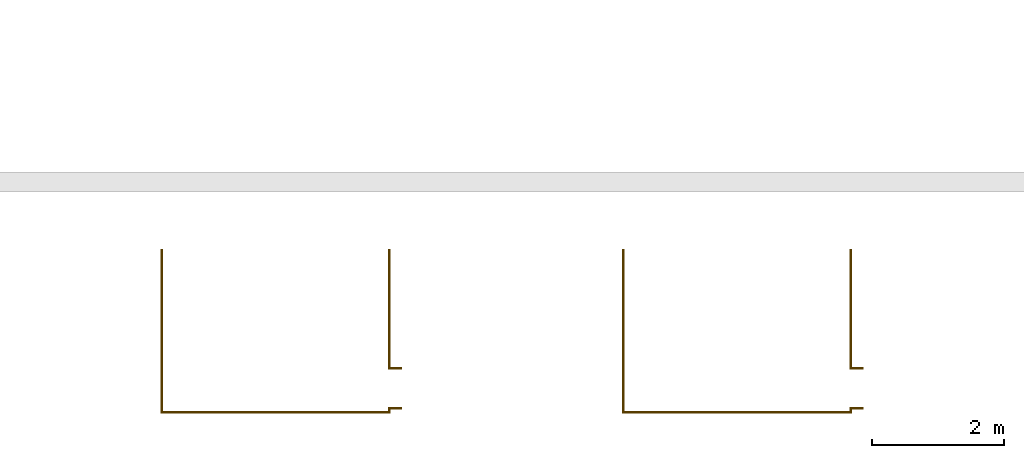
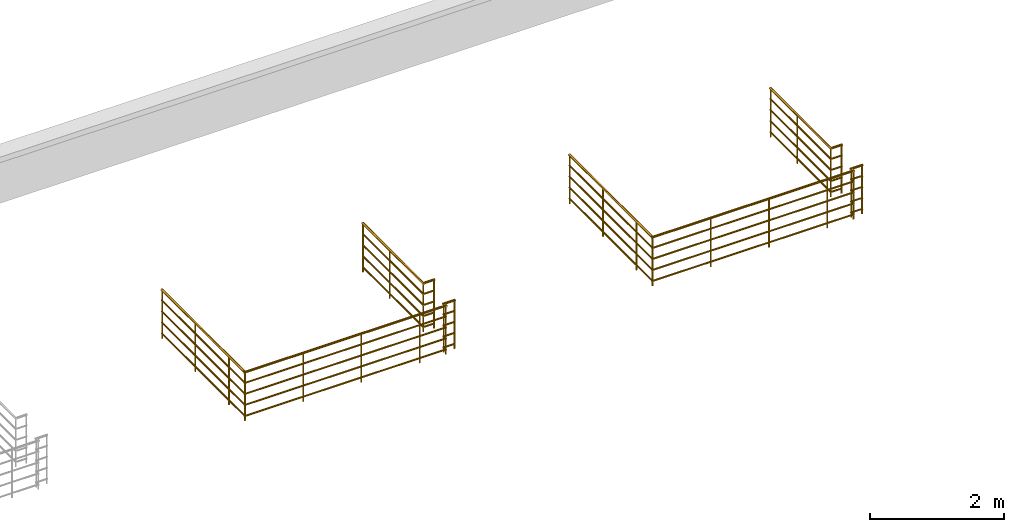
# One storey, part 3 of 6: 4 railings.
"""IFC2X3 building model written with IfcOpenShell, lengths in millimetres."""

from ifc_helpers import new_model, entity, si_unit, converted_unit, derived_unit, direction, frame, frame_2d, origin, origin_2d_with_axis, place, context, subcontext, project, spatial, circle, extrude, element, save


model = new_model("IFC2X3")

# Units and contexts
model_context = context("Model", 3, precision=0.01, world=origin(), true_north=direction((6.12303176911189e-17, 1.0)))
body_context = subcontext(model_context, "Body", "Model", "MODEL_VIEW")
ifc_project = project(units=[si_unit("LENGTHUNIT", "METRE", prefix="MILLI"), si_unit("AREAUNIT", "SQUARE_METRE"), si_unit("VOLUMEUNIT", "CUBIC_METRE"), converted_unit("PLANEANGLEUNIT", "DEGREE", entity("IfcRatioMeasure", 0.0174532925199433), si_unit("PLANEANGLEUNIT", "RADIAN"), dimensions=[0, 0, 0, 0, 0, 0, 0]), si_unit("MASSUNIT", "GRAM", prefix="KILO"), derived_unit("MASSDENSITYUNIT", [(si_unit("MASSUNIT", "GRAM", prefix="KILO"), 1), (si_unit("LENGTHUNIT", "METRE"), -3)]), si_unit("TIMEUNIT", "SECOND"), si_unit("FREQUENCYUNIT", "HERTZ"), si_unit("THERMODYNAMICTEMPERATUREUNIT", "DEGREE_CELSIUS"), derived_unit("THERMALTRANSMITTANCEUNIT", [(si_unit("MASSUNIT", "GRAM", prefix="KILO"), 1), (si_unit("THERMODYNAMICTEMPERATUREUNIT", "KELVIN"), -1), (si_unit("TIMEUNIT", "SECOND"), -3)]), derived_unit("VOLUMETRICFLOWRATEUNIT", [(si_unit("LENGTHUNIT", "METRE"), 3), (si_unit("TIMEUNIT", "SECOND"), -1)]), si_unit("ELECTRICCURRENTUNIT", "AMPERE"), si_unit("ELECTRICVOLTAGEUNIT", "VOLT"), si_unit("POWERUNIT", "WATT"), si_unit("FORCEUNIT", "NEWTON", prefix="KILO"), si_unit("ILLUMINANCEUNIT", "LUX"), si_unit("LUMINOUSFLUXUNIT", "LUMEN"), si_unit("LUMINOUSINTENSITYUNIT", "CANDELA"), derived_unit("USERDEFINED", [(si_unit("MASSUNIT", "GRAM", prefix="KILO"), -1), (si_unit("LENGTHUNIT", "METRE"), -2), (si_unit("TIMEUNIT", "SECOND"), 3), (si_unit("LUMINOUSFLUXUNIT", "LUMEN"), 1)]), derived_unit("LINEARVELOCITYUNIT", [(si_unit("LENGTHUNIT", "METRE"), 1), (si_unit("TIMEUNIT", "SECOND"), -1)]), si_unit("PRESSUREUNIT", "PASCAL"), derived_unit("USERDEFINED", [(si_unit("LENGTHUNIT", "METRE"), -2), (si_unit("MASSUNIT", "GRAM", prefix="KILO"), 1), (si_unit("TIMEUNIT", "SECOND"), -2)])], contexts=[model_context])

# Site, building, storey
site_placement = place(None, origin())
site = spatial("IfcSite", under=ifc_project, at=site_placement, Name="表面", CompositionType="ELEMENT")
building_placement = place(site_placement, origin())
building = spatial("IfcBuilding", under=site, at=building_placement, CompositionType="ELEMENT")
storey_placement = place(building_placement, frame((0.0, 0.0, 3300.0)))
storey = spatial("IfcBuildingStorey", under=building, at=storey_placement, Name="3.3000", CompositionType="ELEMENT", Elevation=3300.0)

# Railings
railing_1_placement = place(storey_placement, origin())
element("IfcRailing", 1, at=railing_1_placement, inside=storey, Name="栏杆扶手:900mm 圆管", ObjectType="栏杆扶手:900mm 圆管", PredefinedType="NOTDEFINED", context=body_context, shape_type="SweptSolid", body=[
    extrude(circle(Radius=12.5, at=origin_2d_with_axis()), frame((-3454.17647644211, -2105.09994881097, 500.0), z_axis=(0.0, 0.0, 1.0), x_axis=(0.0, -1.0, 0.0)), (0.0, 0.0, 1.0), 859.999999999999),
    extrude(circle(Radius=12.5, at=origin_2d_with_axis()), frame((-4454.17647644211, -2105.09994881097, 500.0), z_axis=(0.0, 0.0, 1.0), x_axis=(0.0, -1.0, 0.0)), (0.0, 0.0, 1.0), 859.999999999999),
    extrude(circle(Radius=12.5, at=origin_2d_with_axis()), frame((-5454.17647644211, -2105.09994881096, 500.0), z_axis=(0.0, 0.0, 1.0), x_axis=(0.0, -1.0, 0.0)), (0.0, 0.0, 1.0), 859.999999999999),
    extrude(circle(Radius=12.5, at=frame_2d((4.69078510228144e-28, -2.70716782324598e-13), x_axis=(1.0, 0.0))), frame((-6454.17647644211, -1630.30259261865, 500.0), z_axis=(0.0, 0.0, 1.0), x_axis=(-1.0, 0.0, 0.0)), (0.0, 0.0, 1.0), 859.999999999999),
    extrude(circle(Radius=12.5, at=origin_2d_with_axis()), frame((-6454.17647644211, -630.302592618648, 500.0), z_axis=(0.0, 0.0, 1.0), x_axis=(-1.0, 0.0, 0.0)), (0.0, 0.0, 1.0), 859.999999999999),
    extrude(circle(Radius=12.5, at=frame_2d((0.0, -2.70716782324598e-13), x_axis=(1.0, 0.0))), frame((-3003.79878140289, -2045.09994881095, 500.0)), (0.0, 0.0, 1.0), 859.999999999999),
    extrude(circle(Radius=12.5, at=origin_2d_with_axis()), frame((-3003.79878140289, -2105.09994881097, 500.0), z_axis=(0.0, 0.0, 1.0), x_axis=(0.0, -1.0, 0.0)), (0.0, 0.0, 1.0), 859.999999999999),
    extrude(circle(Radius=12.5, at=origin_2d_with_axis()), frame((-6454.17647644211, -2105.09994881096, 500.0), z_axis=(0.0, 0.0, 1.0), x_axis=(-1.0, 0.0, 0.0)), (0.0, 0.0, 1.0), 859.999999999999),
    extrude(circle(Radius=12.5, at=origin_2d_with_axis()), frame((-2821.29878140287, -2045.09994881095, 500.0), z_axis=(0.0, 0.0, 1.0), x_axis=(0.0, -1.0, 0.0)), (0.0, 0.0, 1.0), 859.999999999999),
    extrude(circle(Radius=12.5, at=frame_2d((1.17269627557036e-28, -6.76791955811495e-14), x_axis=(1.0, 0.0))), frame((-6454.1764764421, 357.197407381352, 500.0), z_axis=(0.0, 0.0, 1.0), x_axis=(-1.0, 0.0, 0.0)), (0.0, 0.0, 1.0), 859.999999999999),
    extrude(circle(Radius=20.0, at=origin_2d_with_axis()), frame((-6454.17647644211, -2085.09994881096, 1380.0), z_axis=(0.0, 1.0, 0.0), x_axis=(1.0, 0.0, 0.0)), (0.0, 0.0, 1.0), 2454.79735619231),
    extrude(circle(Radius=20.0, at=origin_2d_with_axis()), frame((-6474.17647644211, -2105.09994881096, 1380.0), z_axis=(1.0, 0.0, 0.0), x_axis=(0.0, 1.0, 0.0)), (0.0, 0.0, 1.0), 3450.37769503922),
    extrude(circle(Radius=20.0, at=origin_2d_with_axis()), frame((-3003.79878140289, -2125.09994881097, 1380.0), z_axis=(0.0, 1.0, 0.0), x_axis=(-1.0, 0.0, 0.0)), (0.0, 0.0, 1.0), 60.0000000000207),
    extrude(circle(Radius=20.0, at=origin_2d_with_axis()), frame((-3023.79878140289, -2045.09994881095, 1380.0), z_axis=(1.0, 0.0, 0.0), x_axis=(0.0, 1.0, 0.0)), (0.0, 0.0, 1.0), 215.000000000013),
    extrude(circle(Radius=15.0, at=origin_2d_with_axis()), frame((-6454.17647644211, -2090.09994881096, 1185.0), z_axis=(0.0, 1.0, 0.0), x_axis=(1.0, 0.0, 0.0)), (0.0, 0.0, 1.0), 2459.79735619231),
    extrude(circle(Radius=15.0, at=origin_2d_with_axis()), frame((-6469.17647644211, -2105.09994881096, 1185.0), z_axis=(1.0, 0.0, 0.0), x_axis=(0.0, 1.0, 0.0)), (0.0, 0.0, 1.0), 3450.37769503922),
    extrude(circle(Radius=15.0, at=origin_2d_with_axis()), frame((-3003.79878140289, -2120.09994881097, 1185.0), z_axis=(0.0, 1.0, 0.0), x_axis=(-1.0, 0.0, 0.0)), (0.0, 0.0, 1.0), 60.000000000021),
    extrude(circle(Radius=15.0, at=origin_2d_with_axis()), frame((-3018.79878140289, -2045.09994881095, 1185.0), z_axis=(1.0, 0.0, 0.0), x_axis=(0.0, 1.0, 0.0)), (0.0, 0.0, 1.0), 210.000000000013),
    extrude(circle(Radius=15.0, at=origin_2d_with_axis()), frame((-6454.17647644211, -2090.09994881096, 985.0), z_axis=(0.0, 1.0, 0.0), x_axis=(1.0, 0.0, 0.0)), (0.0, 0.0, 1.0), 2459.79735619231),
    extrude(circle(Radius=15.0, at=origin_2d_with_axis()), frame((-6469.17647644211, -2105.09994881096, 985.0), z_axis=(1.0, 0.0, 0.0), x_axis=(0.0, 1.0, 0.0)), (0.0, 0.0, 1.0), 3450.37769503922),
    extrude(circle(Radius=15.0, at=origin_2d_with_axis()), frame((-3003.79878140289, -2120.09994881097, 985.0), z_axis=(0.0, 1.0, 0.0), x_axis=(-1.0, 0.0, 0.0)), (0.0, 0.0, 1.0), 60.000000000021),
    extrude(circle(Radius=15.0, at=origin_2d_with_axis()), frame((-3018.79878140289, -2045.09994881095, 985.0), z_axis=(1.0, 0.0, 0.0), x_axis=(0.0, 1.0, 0.0)), (0.0, 0.0, 1.0), 210.000000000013),
    extrude(circle(Radius=15.0, at=origin_2d_with_axis()), frame((-6454.17647644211, -2090.09994881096, 785.0), z_axis=(0.0, 1.0, 0.0), x_axis=(1.0, 0.0, 0.0)), (0.0, 0.0, 1.0), 2459.79735619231),
    extrude(circle(Radius=15.0, at=origin_2d_with_axis()), frame((-6469.17647644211, -2105.09994881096, 785.0), z_axis=(1.0, 0.0, 0.0), x_axis=(0.0, 1.0, 0.0)), (0.0, 0.0, 1.0), 3450.37769503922),
    extrude(circle(Radius=15.0, at=origin_2d_with_axis()), frame((-3003.79878140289, -2120.09994881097, 785.0), z_axis=(0.0, 1.0, 0.0), x_axis=(-1.0, 0.0, 0.0)), (0.0, 0.0, 1.0), 60.000000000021),
    extrude(circle(Radius=15.0, at=origin_2d_with_axis()), frame((-3018.79878140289, -2045.09994881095, 785.0), z_axis=(1.0, 0.0, 0.0), x_axis=(0.0, 1.0, 0.0)), (0.0, 0.0, 1.0), 210.000000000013),
    extrude(circle(Radius=15.0, at=origin_2d_with_axis()), frame((-6454.17647644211, -2090.09994881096, 585.0), z_axis=(0.0, 1.0, 0.0), x_axis=(1.0, 0.0, 0.0)), (0.0, 0.0, 1.0), 2459.79735619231),
    extrude(circle(Radius=15.0, at=origin_2d_with_axis()), frame((-6469.17647644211, -2105.09994881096, 585.0), z_axis=(1.0, 0.0, 0.0), x_axis=(0.0, 1.0, 0.0)), (0.0, 0.0, 1.0), 3450.37769503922),
    extrude(circle(Radius=15.0, at=origin_2d_with_axis()), frame((-3003.79878140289, -2120.09994881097, 585.0), z_axis=(0.0, 1.0, 0.0), x_axis=(-1.0, 0.0, 0.0)), (0.0, 0.0, 1.0), 60.000000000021),
    extrude(circle(Radius=15.0, at=origin_2d_with_axis()), frame((-3018.79878140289, -2045.09994881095, 585.0), z_axis=(1.0, 0.0, 0.0), x_axis=(0.0, 1.0, 0.0)), (0.0, 0.0, 1.0), 210.000000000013),
])
railing_2_placement = place(storey_placement, origin())
element("IfcRailing", 2, at=railing_2_placement, inside=storey, Name="栏杆扶手:900mm 圆管", ObjectType="栏杆扶手:900mm 圆管", PredefinedType="NOTDEFINED", context=body_context, shape_type="SweptSolid", body=[
    extrude(circle(Radius=12.5, at=frame_2d((3.29419867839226e-28, -1.35358391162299e-13), x_axis=(1.0, 0.0))), frame((-3003.79878140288, -435.099948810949, 500.0)), (0.0, 0.0, 1.0), 859.999999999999),
    extrude(circle(Radius=12.5, at=origin_2d_with_axis()), frame((-3003.79878140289, -1435.09994881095, 500.0), z_axis=(0.0, 0.0, 1.0), x_axis=(0.0, 1.0, 0.0)), (0.0, 0.0, 1.0), 859.999999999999),
    extrude(circle(Radius=12.5, at=frame_2d((3.29419867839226e-28, -1.35358391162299e-13), x_axis=(1.0, 0.0))), frame((-3003.79878140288, 357.197407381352, 500.0)), (0.0, 0.0, 1.0), 859.999999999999),
    extrude(circle(Radius=12.5, at=origin_2d_with_axis()), frame((-2821.29878140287, -1435.09994881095, 500.0), z_axis=(0.0, 0.0, 1.0), x_axis=(0.0, 1.0, 0.0)), (0.0, 0.0, 1.0), 859.999999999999),
    extrude(circle(Radius=20.0, at=origin_2d_with_axis()), frame((-2983.79878140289, -1435.09994881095, 1380.0), z_axis=(1.0, 0.0, 0.0), x_axis=(0.0, -1.0, 0.0)), (0.0, 0.0, 1.0), 175.000000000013),
    extrude(circle(Radius=20.0, at=origin_2d_with_axis()), frame((-3003.79878140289, -1455.09994881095, 1380.0), z_axis=(0.0, 1.0, 0.0), x_axis=(-1.0, 0.0, 0.0)), (0.0, 0.0, 1.0), 1824.7973561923),
    extrude(circle(Radius=15.0, at=origin_2d_with_axis()), frame((-2988.79878140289, -1435.09994881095, 1185.0), z_axis=(1.0, 0.0, 0.0), x_axis=(0.0, -1.0, 0.0)), (0.0, 0.0, 1.0), 180.000000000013),
    extrude(circle(Radius=15.0, at=origin_2d_with_axis()), frame((-3003.79878140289, -1450.09994881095, 1185.0), z_axis=(0.0, 1.0, 0.0), x_axis=(-1.0, 0.0, 0.0)), (0.0, 0.0, 1.0), 1819.7973561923),
    extrude(circle(Radius=15.0, at=origin_2d_with_axis()), frame((-2988.79878140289, -1435.09994881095, 985.0), z_axis=(1.0, 0.0, 0.0), x_axis=(0.0, -1.0, 0.0)), (0.0, 0.0, 1.0), 180.000000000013),
    extrude(circle(Radius=15.0, at=origin_2d_with_axis()), frame((-3003.79878140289, -1450.09994881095, 985.0), z_axis=(0.0, 1.0, 0.0), x_axis=(-1.0, 0.0, 0.0)), (0.0, 0.0, 1.0), 1819.7973561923),
    extrude(circle(Radius=15.0, at=origin_2d_with_axis()), frame((-2988.79878140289, -1435.09994881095, 785.0), z_axis=(1.0, 0.0, 0.0), x_axis=(0.0, -1.0, 0.0)), (0.0, 0.0, 1.0), 180.000000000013),
    extrude(circle(Radius=15.0, at=origin_2d_with_axis()), frame((-3003.79878140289, -1450.09994881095, 785.0), z_axis=(0.0, 1.0, 0.0), x_axis=(-1.0, 0.0, 0.0)), (0.0, 0.0, 1.0), 1819.7973561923),
    extrude(circle(Radius=15.0, at=origin_2d_with_axis()), frame((-2988.79878140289, -1435.09994881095, 585.0), z_axis=(1.0, 0.0, 0.0), x_axis=(0.0, -1.0, 0.0)), (0.0, 0.0, 1.0), 180.000000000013),
    extrude(circle(Radius=15.0, at=origin_2d_with_axis()), frame((-3003.79878140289, -1450.09994881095, 585.0), z_axis=(0.0, 1.0, 0.0), x_axis=(-1.0, 0.0, 0.0)), (0.0, 0.0, 1.0), 1819.7973561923),
])
railing_3_placement = place(storey_placement, origin())
element("IfcRailing", 3, at=railing_3_placement, inside=storey, Name="栏杆扶手:900mm 圆管", ObjectType="栏杆扶手:900mm 圆管", PredefinedType="NOTDEFINED", context=body_context, shape_type="SweptSolid", body=[
    extrude(circle(Radius=12.5, at=origin_2d_with_axis()), frame((3545.8235235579, -2105.09994881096, 500.0), z_axis=(0.0, 0.0, 1.0), x_axis=(0.0, -1.0, 0.0)), (0.0, 0.0, 1.0), 859.999999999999),
    extrude(circle(Radius=12.5, at=origin_2d_with_axis()), frame((2545.8235235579, -2105.09994881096, 500.0), z_axis=(0.0, 0.0, 1.0), x_axis=(0.0, -1.0, 0.0)), (0.0, 0.0, 1.0), 859.999999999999),
    extrude(circle(Radius=12.5, at=frame_2d((8.79356020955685e-28, -2.70716782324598e-13), x_axis=(1.0, 0.0))), frame((1545.8235235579, -2105.09994881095, 500.0), z_axis=(0.0, 0.0, 1.0), x_axis=(0.0, -1.0, 0.0)), (0.0, 0.0, 1.0), 859.999999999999),
    extrude(circle(Radius=12.5, at=frame_2d((4.69078510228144e-28, -2.70716782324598e-13), x_axis=(1.0, 0.0))), frame((545.823523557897, -1630.30259261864, 500.0), z_axis=(0.0, 0.0, 1.0), x_axis=(-1.0, 0.0, 0.0)), (0.0, 0.0, 1.0), 859.999999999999),
    extrude(circle(Radius=12.5, at=origin_2d_with_axis()), frame((545.823523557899, -630.302592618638, 500.0), z_axis=(0.0, 0.0, 1.0), x_axis=(-1.0, 0.0, 0.0)), (0.0, 0.0, 1.0), 859.999999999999),
    extrude(circle(Radius=12.5, at=frame_2d((0.0, -2.70716782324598e-13), x_axis=(1.0, 0.0))), frame((3996.20121859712, -2045.09994881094, 500.0)), (0.0, 0.0, 1.0), 859.999999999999),
    extrude(circle(Radius=12.5, at=origin_2d_with_axis()), frame((3996.20121859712, -2105.09994881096, 500.0), z_axis=(0.0, 0.0, 1.0), x_axis=(0.0, -1.0, 0.0)), (0.0, 0.0, 1.0), 859.999999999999),
    extrude(circle(Radius=12.5, at=origin_2d_with_axis()), frame((545.823523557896, -2105.09994881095, 500.0), z_axis=(0.0, 0.0, 1.0), x_axis=(-1.0, 0.0, 0.0)), (0.0, 0.0, 1.0), 859.999999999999),
    extrude(circle(Radius=12.5, at=origin_2d_with_axis()), frame((4178.70121859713, -2045.09994881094, 500.0), z_axis=(0.0, 0.0, 1.0), x_axis=(0.0, -1.0, 0.0)), (0.0, 0.0, 1.0), 859.999999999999),
    extrude(circle(Radius=12.5, at=frame_2d((1.17269627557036e-28, -6.76791955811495e-14), x_axis=(1.0, 0.0))), frame((545.8235235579, 357.197407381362, 500.0), z_axis=(0.0, 0.0, 1.0), x_axis=(-1.0, 0.0, 0.0)), (0.0, 0.0, 1.0), 859.999999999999),
    extrude(circle(Radius=20.0, at=origin_2d_with_axis()), frame((545.823523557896, -2085.09994881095, 1380.0), z_axis=(0.0, 1.0, 0.0), x_axis=(1.0, 0.0, 0.0)), (0.0, 0.0, 1.0), 2454.79735619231),
    extrude(circle(Radius=20.0, at=origin_2d_with_axis()), frame((525.823523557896, -2105.09994881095, 1380.0), z_axis=(1.0, 0.0, 0.0), x_axis=(0.0, 1.0, 0.0)), (0.0, 0.0, 1.0), 3450.37769503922),
    extrude(circle(Radius=20.0, at=origin_2d_with_axis()), frame((3996.20121859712, -2125.09994881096, 1380.0), z_axis=(0.0, 1.0, 0.0), x_axis=(-1.0, 0.0, 0.0)), (0.0, 0.0, 1.0), 60.0000000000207),
    extrude(circle(Radius=20.0, at=origin_2d_with_axis()), frame((3976.20121859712, -2045.09994881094, 1380.0), z_axis=(1.0, 0.0, 0.0), x_axis=(0.0, 1.0, 0.0)), (0.0, 0.0, 1.0), 215.000000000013),
    extrude(circle(Radius=15.0, at=origin_2d_with_axis()), frame((545.823523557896, -2090.09994881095, 1185.0), z_axis=(0.0, 1.0, 0.0), x_axis=(1.0, 0.0, 0.0)), (0.0, 0.0, 1.0), 2459.79735619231),
    extrude(circle(Radius=15.0, at=origin_2d_with_axis()), frame((530.823523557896, -2105.09994881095, 1185.0), z_axis=(1.0, 0.0, 0.0), x_axis=(0.0, 1.0, 0.0)), (0.0, 0.0, 1.0), 3450.37769503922),
    extrude(circle(Radius=15.0, at=origin_2d_with_axis()), frame((3996.20121859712, -2120.09994881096, 1185.0), z_axis=(0.0, 1.0, 0.0), x_axis=(-1.0, 0.0, 0.0)), (0.0, 0.0, 1.0), 60.000000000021),
    extrude(circle(Radius=15.0, at=origin_2d_with_axis()), frame((3981.20121859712, -2045.09994881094, 1185.0), z_axis=(1.0, 0.0, 0.0), x_axis=(0.0, 1.0, 0.0)), (0.0, 0.0, 1.0), 210.000000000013),
    extrude(circle(Radius=15.0, at=origin_2d_with_axis()), frame((545.823523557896, -2090.09994881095, 985.0), z_axis=(0.0, 1.0, 0.0), x_axis=(1.0, 0.0, 0.0)), (0.0, 0.0, 1.0), 2459.79735619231),
    extrude(circle(Radius=15.0, at=origin_2d_with_axis()), frame((530.823523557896, -2105.09994881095, 985.0), z_axis=(1.0, 0.0, 0.0), x_axis=(0.0, 1.0, 0.0)), (0.0, 0.0, 1.0), 3450.37769503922),
    extrude(circle(Radius=15.0, at=origin_2d_with_axis()), frame((3996.20121859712, -2120.09994881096, 985.0), z_axis=(0.0, 1.0, 0.0), x_axis=(-1.0, 0.0, 0.0)), (0.0, 0.0, 1.0), 60.000000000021),
    extrude(circle(Radius=15.0, at=origin_2d_with_axis()), frame((3981.20121859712, -2045.09994881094, 985.0), z_axis=(1.0, 0.0, 0.0), x_axis=(0.0, 1.0, 0.0)), (0.0, 0.0, 1.0), 210.000000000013),
    extrude(circle(Radius=15.0, at=origin_2d_with_axis()), frame((545.823523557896, -2090.09994881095, 785.0), z_axis=(0.0, 1.0, 0.0), x_axis=(1.0, 0.0, 0.0)), (0.0, 0.0, 1.0), 2459.79735619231),
    extrude(circle(Radius=15.0, at=origin_2d_with_axis()), frame((530.823523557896, -2105.09994881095, 785.0), z_axis=(1.0, 0.0, 0.0), x_axis=(0.0, 1.0, 0.0)), (0.0, 0.0, 1.0), 3450.37769503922),
    extrude(circle(Radius=15.0, at=origin_2d_with_axis()), frame((3996.20121859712, -2120.09994881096, 785.0), z_axis=(0.0, 1.0, 0.0), x_axis=(-1.0, 0.0, 0.0)), (0.0, 0.0, 1.0), 60.000000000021),
    extrude(circle(Radius=15.0, at=origin_2d_with_axis()), frame((3981.20121859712, -2045.09994881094, 785.0), z_axis=(1.0, 0.0, 0.0), x_axis=(0.0, 1.0, 0.0)), (0.0, 0.0, 1.0), 210.000000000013),
    extrude(circle(Radius=15.0, at=origin_2d_with_axis()), frame((545.823523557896, -2090.09994881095, 585.0), z_axis=(0.0, 1.0, 0.0), x_axis=(1.0, 0.0, 0.0)), (0.0, 0.0, 1.0), 2459.79735619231),
    extrude(circle(Radius=15.0, at=origin_2d_with_axis()), frame((530.823523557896, -2105.09994881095, 585.0), z_axis=(1.0, 0.0, 0.0), x_axis=(0.0, 1.0, 0.0)), (0.0, 0.0, 1.0), 3450.37769503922),
    extrude(circle(Radius=15.0, at=origin_2d_with_axis()), frame((3996.20121859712, -2120.09994881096, 585.0), z_axis=(0.0, 1.0, 0.0), x_axis=(-1.0, 0.0, 0.0)), (0.0, 0.0, 1.0), 60.000000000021),
    extrude(circle(Radius=15.0, at=origin_2d_with_axis()), frame((3981.20121859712, -2045.09994881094, 585.0), z_axis=(1.0, 0.0, 0.0), x_axis=(0.0, 1.0, 0.0)), (0.0, 0.0, 1.0), 210.000000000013),
])
railing_4_placement = place(storey_placement, origin())
element("IfcRailing", 4, at=railing_4_placement, inside=storey, Name="栏杆扶手:900mm 圆管", ObjectType="栏杆扶手:900mm 圆管", PredefinedType="NOTDEFINED", context=body_context, shape_type="SweptSolid", body=[
    extrude(circle(Radius=12.5, at=frame_2d((3.29419867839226e-28, -1.35358391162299e-13), x_axis=(1.0, 0.0))), frame((3996.20121859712, -435.099948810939, 500.0)), (0.0, 0.0, 1.0), 859.999999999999),
    extrude(circle(Radius=12.5, at=origin_2d_with_axis()), frame((3996.20121859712, -1435.09994881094, 500.0), z_axis=(0.0, 0.0, 1.0), x_axis=(0.0, 1.0, 0.0)), (0.0, 0.0, 1.0), 859.999999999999),
    extrude(circle(Radius=12.5, at=frame_2d((3.29419867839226e-28, -1.35358391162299e-13), x_axis=(1.0, 0.0))), frame((3996.20121859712, 357.197407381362, 500.0)), (0.0, 0.0, 1.0), 859.999999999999),
    extrude(circle(Radius=12.5, at=origin_2d_with_axis()), frame((4178.70121859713, -1435.09994881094, 500.0), z_axis=(0.0, 0.0, 1.0), x_axis=(0.0, 1.0, 0.0)), (0.0, 0.0, 1.0), 859.999999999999),
    extrude(circle(Radius=20.0, at=origin_2d_with_axis()), frame((4016.20121859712, -1435.09994881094, 1380.0), z_axis=(1.0, 0.0, 0.0), x_axis=(0.0, -1.0, 0.0)), (0.0, 0.0, 1.0), 175.000000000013),
    extrude(circle(Radius=20.0, at=origin_2d_with_axis()), frame((3996.20121859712, -1455.09994881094, 1380.0), z_axis=(0.0, 1.0, 0.0), x_axis=(-1.0, 0.0, 0.0)), (0.0, 0.0, 1.0), 1824.7973561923),
    extrude(circle(Radius=15.0, at=origin_2d_with_axis()), frame((4011.20121859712, -1435.09994881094, 1185.0), z_axis=(1.0, 0.0, 0.0), x_axis=(0.0, -1.0, 0.0)), (0.0, 0.0, 1.0), 180.000000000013),
    extrude(circle(Radius=15.0, at=origin_2d_with_axis()), frame((3996.20121859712, -1450.09994881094, 1185.0), z_axis=(0.0, 1.0, 0.0), x_axis=(-1.0, 0.0, 0.0)), (0.0, 0.0, 1.0), 1819.7973561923),
    extrude(circle(Radius=15.0, at=origin_2d_with_axis()), frame((4011.20121859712, -1435.09994881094, 985.0), z_axis=(1.0, 0.0, 0.0), x_axis=(0.0, -1.0, 0.0)), (0.0, 0.0, 1.0), 180.000000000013),
    extrude(circle(Radius=15.0, at=origin_2d_with_axis()), frame((3996.20121859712, -1450.09994881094, 985.0), z_axis=(0.0, 1.0, 0.0), x_axis=(-1.0, 0.0, 0.0)), (0.0, 0.0, 1.0), 1819.7973561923),
    extrude(circle(Radius=15.0, at=origin_2d_with_axis()), frame((4011.20121859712, -1435.09994881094, 785.0), z_axis=(1.0, 0.0, 0.0), x_axis=(0.0, -1.0, 0.0)), (0.0, 0.0, 1.0), 180.000000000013),
    extrude(circle(Radius=15.0, at=origin_2d_with_axis()), frame((3996.20121859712, -1450.09994881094, 785.0), z_axis=(0.0, 1.0, 0.0), x_axis=(-1.0, 0.0, 0.0)), (0.0, 0.0, 1.0), 1819.7973561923),
    extrude(circle(Radius=15.0, at=origin_2d_with_axis()), frame((4011.20121859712, -1435.09994881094, 585.0), z_axis=(1.0, 0.0, 0.0), x_axis=(0.0, -1.0, 0.0)), (0.0, 0.0, 1.0), 180.000000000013),
    extrude(circle(Radius=15.0, at=origin_2d_with_axis()), frame((3996.20121859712, -1450.09994881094, 585.0), z_axis=(0.0, 1.0, 0.0), x_axis=(-1.0, 0.0, 0.0)), (0.0, 0.0, 1.0), 1819.7973561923),
])

save(model, "model.ifc")
